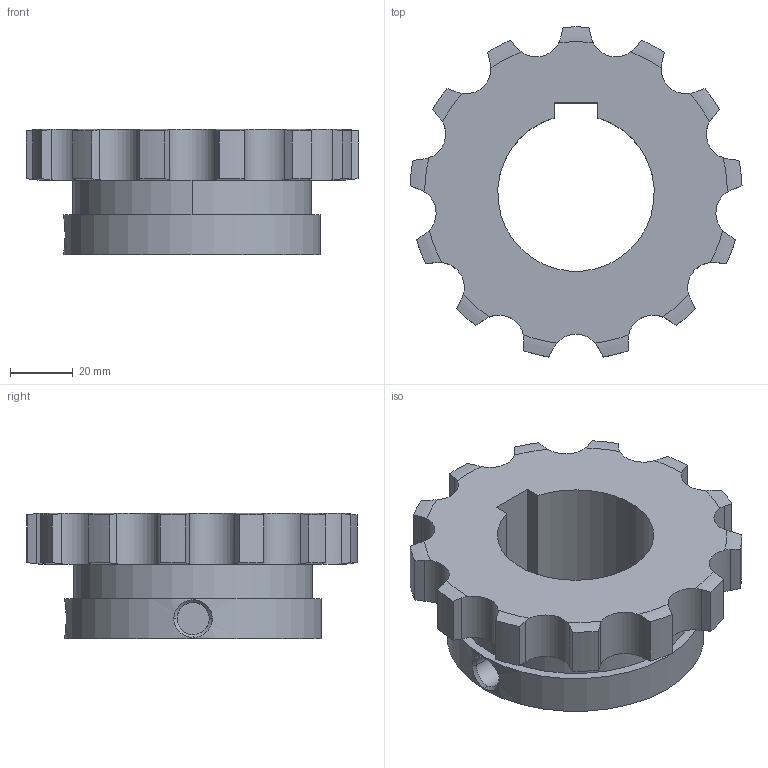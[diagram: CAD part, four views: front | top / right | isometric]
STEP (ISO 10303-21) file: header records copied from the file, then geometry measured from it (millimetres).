
FILE_DESCRIPTION((''),'2;1');
FILE_NAME('510-501-5013_PRT','2021-02-13T',('Brieden'),('Brieden'),'PRO/ENGINEER BY PARAMETRIC TECHNOLOGY CORPORATION, 2010160','PRO/ENGINEER BY PARAMETRIC TECHNOLOGY CORPORATION, 2010160','');
FILE_SCHEMA(('AUTOMOTIVE_DESIGN { 1 0 10303 214 1 1 1 1 }'));
Length unit declared in the file: millimetre
Products named in the file (1): 510-501-5013_PRT
Bounding box: 106.02 x 105.39 x 40 mm (x, y, z)
Volume: 156944.2 mm3; surface area: 32441.6 mm2
Topology: 1 solids, 1 shells, 101 faces, 285 edges, 188 vertices
Faces by surface type: cylinder 61, torus 26, plane 8, bspline 6
Entity records: 5084 total; most frequent: CARTESIAN_POINT 1695, ORIENTED_EDGE 570, DIRECTION 451, PRESENTATION_STYLE_ASSIGNMENT 286, STYLED_ITEM 286, CURVE_STYLE 285, EDGE_CURVE 285, VERTEX_POINT 188
